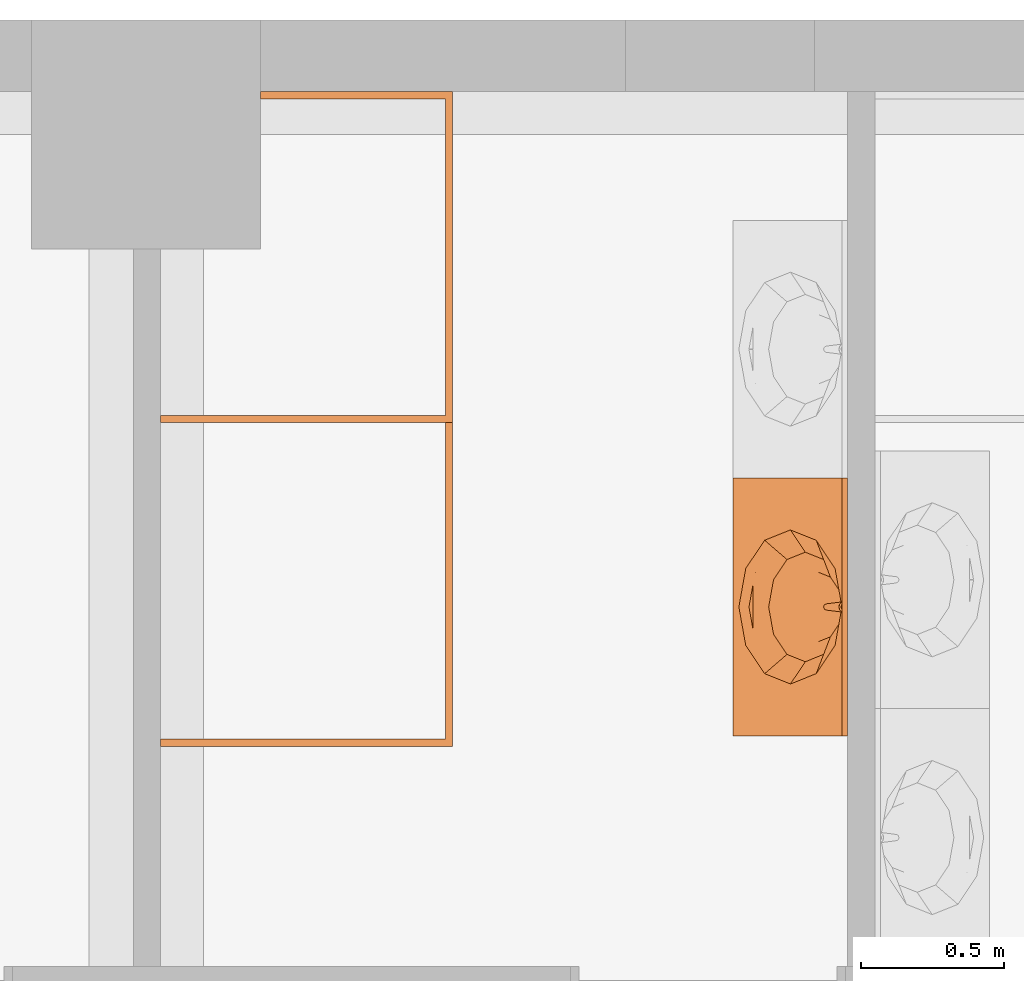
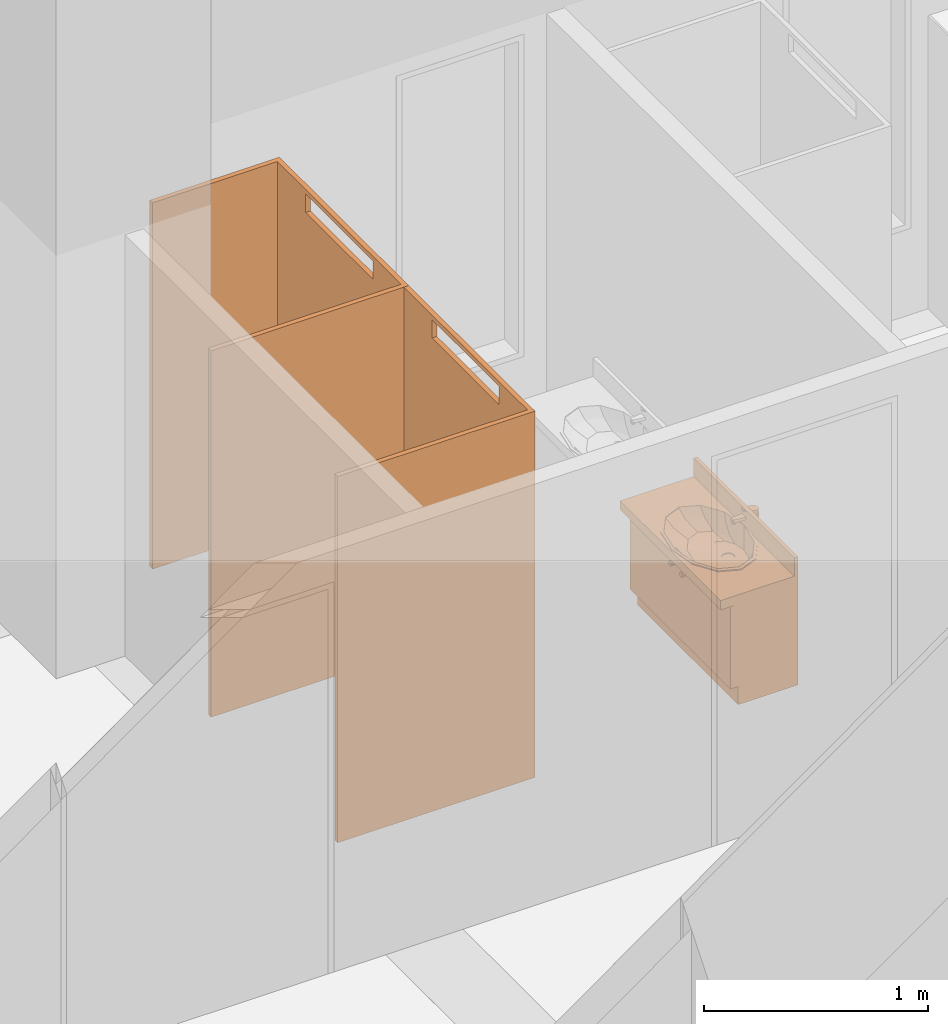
# One storey, part 10 of 14: 3 proxies.
"""IFC2X3 building model written with IfcOpenShell, lengths in millimetres."""

from ifc_helpers import new_model, entity, si_unit, converted_unit, direction, frame, origin_with_axes, place, context, project, spatial, open_shell, faceted_brep, surface_model, material, element, save


model = new_model("IFC2X3")

# Units and contexts
model_context = context("Model", 3, precision=1e-05, world=origin_with_axes(), true_north=direction((0.0, 1.0)))
ifc_project = project(units=[si_unit("LENGTHUNIT", "METRE", prefix="MILLI"), si_unit("AREAUNIT", "SQUARE_METRE"), si_unit("VOLUMEUNIT", "CUBIC_METRE"), converted_unit("PLANEANGLEUNIT", "DEGREE", entity("IfcPlaneAngleMeasure", 0.017453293), si_unit("PLANEANGLEUNIT", "RADIAN"), dimensions=[0, 0, 0, 0, 0, 0, 0]), si_unit("SOLIDANGLEUNIT", "STERADIAN"), si_unit("MASSUNIT", "GRAM"), si_unit("TIMEUNIT", "SECOND"), si_unit("THERMODYNAMICTEMPERATUREUNIT", "DEGREE_CELSIUS"), si_unit("LUMINOUSINTENSITYUNIT", "LUMEN")], contexts=[model_context])

# Site, building, storey
site_placement = place(None, origin_with_axes())
site = spatial("IfcSite", under=ifc_project, at=site_placement, Name="\x83T\x83C\x83g", CompositionType="ELEMENT")
building_placement = place(site_placement, origin_with_axes())
building = spatial("IfcBuilding", under=site, at=building_placement, Name="Daitec-Sample 201208", CompositionType="ELEMENT")
storey_placement = place(building_placement, frame((0.0, 0.0, 8000.0), z_axis=(0.0, 0.0, 1.0), x_axis=(1.0, 0.0, 0.0)))
storey = spatial("IfcBuildingStorey", under=building, at=storey_placement, Name="3F", CompositionType="ELEMENT", Elevation=8000.0)

# Proxies
ifc_material = material(Name="\x94w\x8ci")
proxy_1_placement = place(storey_placement, frame((20550.071, 21300.379, 0.0), z_axis=(0.0, 0.0, 1.0), x_axis=(0.0, -1.0, 0.0)))
element("IfcBuildingElementProxy", 1, at=proxy_1_placement, inside=storey, material=ifc_material, Name="O2", context=model_context, shape_type="Brep", body=[
    faceted_brep([(0.0, 90.0, 0.0), (0.0, 90.0, 100.0), (-900.0, 90.0, 100.0), (-900.0, 90.0, 0.0), (0.0, 400.0, 0.0), (0.0, 400.0, 100.0), (-900.0, 400.0, 100.0), (-900.0, 400.0, 0.0)], [[[0, 1, 2, 3]], [[4, 5, 1, 0]], [[1, 5, 6, 2]], [[3, 2, 6, 7]], [[0, 3, 7, 4]], [[7, 6, 5, 4]]]),
    faceted_brep([(0.0, 70.0, 100.0), (0.0, 70.0, 120.0), (-20.0, 70.0, 120.0), (-20.0, 70.0, 100.0), (0.0, 400.0, 100.0), (0.0, 400.0, 120.0), (-20.0, 400.0, 120.0), (-880.0, 400.0, 120.0), (-900.0, 400.0, 120.0), (-900.0, 70.0, 120.0), (-880.0, 70.0, 120.0), (-880.0, 70.0, 100.0), (-900.0, 70.0, 100.0), (-900.0, 400.0, 100.0), (-880.0, 400.0, 100.0), (-20.0, 400.0, 100.0)], [[[0, 1, 2, 3]], [[4, 5, 1, 0]], [[1, 5, 6, 7, 8, 9, 10, 2]], [[3, 2, 10, 11]], [[0, 3, 11, 12, 13, 14, 15, 4]], [[15, 6, 5, 4]], [[14, 7, 6, 15]], [[13, 8, 7, 14]], [[12, 9, 8, 13]], [[11, 10, 9, 12]]]),
    faceted_brep([(0.0, 70.0, 120.0), (0.0, 70.0, 550.0), (-20.0, 70.0, 550.0), (-20.0, 70.0, 120.0), (0.0, 400.0, 120.0), (0.0, 400.0, 550.0), (-900.0, 400.0, 550.0), (-900.0, 70.0, 550.0), (-880.0, 70.0, 550.0), (-880.0, 380.0, 550.0), (-20.0, 380.0, 550.0), (-20.0, 380.0, 120.0), (-880.0, 380.0, 120.0), (-880.0, 70.0, 120.0), (-900.0, 70.0, 120.0), (-900.0, 400.0, 120.0)], [[[0, 1, 2, 3]], [[4, 5, 1, 0]], [[1, 5, 6, 7, 8, 9, 10, 2]], [[3, 2, 10, 11]], [[0, 3, 11, 12, 13, 14, 15, 4]], [[15, 6, 5, 4]], [[14, 7, 6, 15]], [[13, 8, 7, 14]], [[12, 9, 8, 13]], [[11, 10, 9, 12]]]),
    faceted_brep([(-880.0, 70.0, 223.33333), (-880.0, 70.0, 243.33333), (-880.0, 380.0, 243.33333), (-880.0, 380.0, 223.33333), (-20.0, 70.0, 223.33333), (-20.0, 70.0, 243.33333), (-20.0, 380.0, 243.33333), (-20.0, 380.0, 223.33333)], [[[0, 1, 2, 3]], [[4, 5, 1, 0]], [[1, 5, 6, 2]], [[3, 2, 6, 7]], [[0, 3, 7, 4]], [[7, 6, 5, 4]]]),
    faceted_brep([(-880.0, 70.0, 366.66667), (-880.0, 70.0, 386.66667), (-880.0, 380.0, 386.66667), (-880.0, 380.0, 366.66667), (-20.0, 70.0, 366.66667), (-20.0, 70.0, 386.66667), (-20.0, 380.0, 386.66667), (-20.0, 380.0, 366.66667)], [[[0, 1, 2, 3]], [[4, 5, 1, 0]], [[1, 5, 6, 2]], [[3, 2, 6, 7]], [[0, 3, 7, 4]], [[7, 6, 5, 4]]]),
    faceted_brep([(0.0, 400.0, 550.0), (0.0, 0.0, 550.0), (-900.0, 0.0, 550.0), (-900.0, 400.0, 550.0), (-216.17314, 290.0, 550.0), (-315.0, 355.88457, 550.0), (-450.0, 380.0, 550.0), (-585.0, 355.88457, 550.0), (-683.82686, 290.0, 550.0), (-720.0, 200.0, 550.0), (-683.82686, 110.0, 550.0), (-585.0, 44.115427, 550.0), (-450.0, 20.0, 550.0), (-315.0, 44.115427, 550.0), (-216.17314, 110.0, 550.0), (-180.0, 200.0, 550.0), (0.0, 400.0, 600.0), (0.0, 0.0, 600.0), (-900.0, 0.0, 600.0), (-900.0, 400.0, 600.0), (-216.17314, 290.0, 600.0), (-315.0, 355.88457, 600.0), (-450.0, 380.0, 600.0), (-585.0, 355.88457, 600.0), (-683.82686, 290.0, 600.0), (-720.0, 200.0, 600.0), (-683.82686, 110.0, 600.0), (-585.0, 44.115427, 600.0), (-450.0, 20.0, 600.0), (-315.0, 44.115427, 600.0), (-216.17314, 110.0, 600.0), (-180.0, 200.0, 600.0)], [[[0, 1, 2, 3], [4, 5, 6, 7, 8, 9, 10, 11, 12, 13, 14, 15]], [[1, 0, 16, 17]], [[2, 1, 17, 18]], [[3, 2, 18, 19]], [[0, 3, 19, 16]], [[20, 21, 5, 4]], [[21, 22, 6, 5]], [[22, 23, 7, 6]], [[23, 24, 8, 7]], [[24, 25, 9, 8]], [[25, 26, 10, 9]], [[26, 27, 11, 10]], [[27, 28, 12, 11]], [[28, 29, 13, 12]], [[29, 30, 14, 13]], [[30, 31, 15, 14]], [[31, 20, 4, 15]], [[18, 17, 16, 19], [24, 23, 22, 21, 20, 31, 30, 29, 28, 27, 26, 25]]]),
    faceted_brep([(0.0, 380.0, 600.0), (0.0, 380.0, 700.0), (-900.0, 380.0, 700.0), (-900.0, 380.0, 600.0), (0.0, 400.0, 600.0), (0.0, 400.0, 700.0), (-900.0, 400.0, 700.0), (-900.0, 400.0, 600.0)], [[[0, 1, 2, 3]], [[4, 5, 1, 0]], [[1, 5, 6, 2]], [[3, 2, 6, 7]], [[0, 3, 7, 4]], [[7, 6, 5, 4]]]),
    faceted_brep([(-739.0, 200.0, 605.0), (-700.28134, 296.69145, 605.0), (-700.28134, 296.69145, 600.0), (-739.0, 200.0, 600.0), (-700.28134, 103.30855, 605.0), (-594.5, 32.525496, 605.0), (-450.0, 6.6171004, 605.0), (-305.5, 32.525496, 605.0), (-199.71866, 103.30855, 605.0), (-161.0, 200.0, 605.0), (-199.71866, 296.69145, 605.0), (-305.5, 367.4745, 605.0), (-450.0, 393.3829, 605.0), (-594.5, 367.4745, 605.0), (-719.0, 200.0, 605.0), (-682.96083, 290.0, 605.0), (-584.5, 355.88457, 605.0), (-450.0, 380.0, 605.0), (-315.5, 355.88457, 605.0), (-217.03917, 290.0, 605.0), (-181.0, 200.0, 605.0), (-217.03917, 110.0, 605.0), (-315.5, 44.115427, 605.0), (-450.0, 20.0, 605.0), (-584.5, 44.115427, 605.0), (-682.96083, 110.0, 605.0), (-594.5, 367.4745, 600.0), (-450.0, 393.3829, 600.0), (-305.5, 367.4745, 600.0), (-199.71866, 296.69145, 600.0), (-161.0, 200.0, 600.0), (-199.71866, 103.30855, 600.0), (-305.5, 32.525496, 600.0), (-450.0, 6.6171004, 600.0), (-594.5, 32.525496, 600.0), (-700.28134, 103.30855, 600.0), (-719.0, 200.0, 600.0), (-682.96083, 110.0, 600.0), (-584.5, 44.115427, 600.0), (-450.0, 20.0, 600.0), (-315.5, 44.115427, 600.0), (-217.03917, 110.0, 600.0), (-181.0, 200.0, 600.0), (-217.03917, 290.0, 600.0), (-315.5, 355.88457, 600.0), (-450.0, 380.0, 600.0), (-584.5, 355.88457, 600.0), (-682.96083, 290.0, 600.0)], [[[0, 1, 2, 3]], [[0, 4, 5, 6, 7, 8, 9, 10, 11, 12, 13, 1], [14, 15, 16, 17, 18, 19, 20, 21, 22, 23, 24, 25]], [[1, 13, 26, 2]], [[3, 2, 26, 27, 28, 29, 30, 31, 32, 33, 34, 35], [36, 37, 38, 39, 40, 41, 42, 43, 44, 45, 46, 47]], [[4, 0, 3, 35]], [[5, 4, 35, 34]], [[6, 5, 34, 33]], [[7, 6, 33, 32]], [[8, 7, 32, 31]], [[9, 8, 31, 30]], [[10, 9, 30, 29]], [[11, 10, 29, 28]], [[12, 11, 28, 27]], [[13, 12, 27, 26]], [[15, 14, 36, 47]], [[16, 15, 47, 46]], [[17, 16, 46, 45]], [[18, 17, 45, 44]], [[19, 18, 44, 43]], [[20, 19, 43, 42]], [[21, 20, 42, 41]], [[22, 21, 41, 40]], [[23, 22, 40, 39]], [[24, 23, 39, 38]], [[25, 24, 38, 37]], [[14, 25, 37, 36]]]),
    surface_model("IfcShellBasedSurfaceModel", [(-450.0, 380.0, 600.0), (-584.5, 355.88457, 600.0), (-571.05, 358.29612, 548.0), (-450.0, 380.0, 548.0), (-682.96083, 290.0, 600.0), (-659.66475, 299.0, 548.0), (-315.5, 355.88457, 600.0), (-328.95, 358.29612, 548.0), (-719.0, 200.0, 600.0), (-692.1, 218.0, 548.0), (-217.03917, 290.0, 600.0), (-240.33525, 299.0, 548.0), (-682.96083, 110.0, 600.0), (-659.66475, 137.0, 548.0), (-181.0, 200.0, 600.0), (-207.9, 218.0, 548.0), (-584.5, 44.115427, 600.0), (-571.05, 77.703885, 548.0), (-217.03917, 110.0, 600.0), (-240.33525, 137.0, 548.0), (-450.0, 20.0, 600.0), (-450.0, 56.0, 548.0), (-315.5, 44.115427, 600.0), (-328.95, 77.703885, 548.0)], [open_shell([[[0, 1, 2, 3]], [[1, 4, 5, 2]], [[6, 0, 3, 7]], [[4, 8, 9, 5]], [[10, 6, 7, 11]], [[8, 12, 13, 9]], [[14, 10, 11, 15]], [[12, 16, 17, 13]], [[18, 14, 15, 19]], [[16, 20, 21, 17]], [[22, 18, 19, 23]], [[20, 22, 23, 21]]])]),
    surface_model("IfcShellBasedSurfaceModel", [(-450.0, 380.0, 548.0), (-571.05, 358.29612, 548.0), (-545.6295, 362.85393, 496.0), (-450.0, 380.0, 496.0), (-659.66475, 299.0, 548.0), (-615.63515, 316.01, 496.0), (-328.95, 358.29612, 548.0), (-354.3705, 362.85393, 496.0), (-692.1, 218.0, 548.0), (-641.259, 252.02, 496.0), (-240.33525, 299.0, 548.0), (-284.36485, 316.01, 496.0), (-659.66475, 137.0, 548.0), (-615.63515, 188.03, 496.0), (-207.9, 218.0, 548.0), (-258.741, 252.02, 496.0), (-571.05, 77.703885, 548.0), (-545.6295, 141.18607, 496.0), (-240.33525, 137.0, 548.0), (-284.36485, 188.03, 496.0), (-450.0, 56.0, 548.0), (-450.0, 124.04, 496.0), (-328.95, 77.703885, 548.0), (-354.3705, 141.18607, 496.0)], [open_shell([[[0, 1, 2, 3]], [[1, 4, 5, 2]], [[6, 0, 3, 7]], [[4, 8, 9, 5]], [[10, 6, 7, 11]], [[8, 12, 13, 9]], [[14, 10, 11, 15]], [[12, 16, 17, 13]], [[18, 14, 15, 19]], [[16, 20, 21, 17]], [[22, 18, 19, 23]], [[20, 22, 23, 21]]])]),
    surface_model("IfcShellBasedSurfaceModel", [(-450.0, 380.0, 496.0), (-545.6295, 362.85393, 496.0), (-510.24659, 369.19798, 470.0), (-450.0, 380.0, 470.0), (-615.63515, 316.01, 496.0), (-554.35015, 339.6863, 470.0), (-354.3705, 362.85393, 496.0), (-389.75341, 369.19798, 470.0), (-641.259, 252.02, 496.0), (-570.49317, 299.3726, 470.0), (-284.36485, 316.01, 496.0), (-345.64985, 339.6863, 470.0), (-615.63515, 188.03, 496.0), (-554.35015, 259.0589, 470.0), (-258.741, 252.02, 496.0), (-329.50683, 299.3726, 470.0), (-545.6295, 141.18607, 496.0), (-510.24659, 229.54722, 470.0), (-284.36485, 188.03, 496.0), (-345.64985, 259.0589, 470.0), (-450.0, 124.04, 496.0), (-450.0, 218.7452, 470.0), (-354.3705, 141.18607, 496.0), (-389.75341, 229.54722, 470.0)], [open_shell([[[0, 1, 2, 3]], [[1, 4, 5, 2]], [[6, 0, 3, 7]], [[4, 8, 9, 5]], [[10, 6, 7, 11]], [[8, 12, 13, 9]], [[14, 10, 11, 15]], [[12, 16, 17, 13]], [[18, 14, 15, 19]], [[16, 20, 21, 17]], [[22, 18, 19, 23]], [[20, 22, 23, 21]]])]),
    surface_model("IfcShellBasedSurfaceModel", [(-450.0, 380.0, 470.0), (-510.24659, 369.19798, 470.0), (-465.0, 325.35336, 463.0), (-475.98076, 314.3726, 463.0), (-450.0, 329.3726, 463.0), (-554.35015, 339.6863, 470.0), (-389.75341, 369.19798, 470.0), (-480.0, 299.3726, 463.0), (-435.0, 325.35336, 463.0), (-570.49317, 299.3726, 470.0), (-345.64985, 339.6863, 470.0), (-475.98076, 284.3726, 463.0), (-424.01924, 314.3726, 463.0), (-554.35015, 259.0589, 470.0), (-329.50683, 299.3726, 470.0), (-465.0, 273.39184, 463.0), (-420.0, 299.3726, 463.0), (-510.24659, 229.54722, 470.0), (-345.64985, 259.0589, 470.0), (-450.0, 269.3726, 463.0), (-424.01924, 284.3726, 463.0), (-450.0, 218.7452, 470.0), (-389.75341, 229.54722, 470.0), (-435.0, 273.39184, 463.0)], [open_shell([[[0, 1, 2]], [[1, 3, 2]], [[0, 2, 4]], [[1, 5, 3]], [[6, 0, 4]], [[5, 7, 3]], [[6, 4, 8]], [[5, 9, 7]], [[10, 6, 8]], [[9, 11, 7]], [[10, 8, 12]], [[9, 13, 11]], [[14, 10, 12]], [[13, 15, 11]], [[14, 12, 16]], [[13, 17, 15]], [[18, 14, 16]], [[17, 19, 15]], [[18, 16, 20]], [[17, 21, 19]], [[22, 18, 20]], [[21, 23, 19]], [[22, 20, 23]], [[21, 22, 23]]])]),
    surface_model("IfcShellBasedSurfaceModel", [(-480.0, 299.3726, 463.0), (-475.98076, 314.3726, 463.0), (-475.98076, 314.3726, 458.0), (-480.0, 299.3726, 458.0), (-465.0, 325.35336, 463.0), (-465.0, 325.35336, 458.0), (-450.0, 329.3726, 458.0), (-435.0, 325.35336, 458.0), (-424.01924, 314.3726, 458.0), (-420.0, 299.3726, 458.0), (-424.01924, 284.3726, 458.0), (-435.0, 273.39184, 458.0), (-450.0, 269.3726, 458.0), (-465.0, 273.39184, 458.0), (-475.98076, 284.3726, 458.0), (-475.98076, 284.3726, 463.0), (-450.0, 329.3726, 463.0), (-435.0, 325.35336, 463.0), (-424.01924, 314.3726, 463.0), (-420.0, 299.3726, 463.0), (-424.01924, 284.3726, 463.0), (-435.0, 273.39184, 463.0), (-450.0, 269.3726, 463.0), (-465.0, 273.39184, 463.0)], [open_shell([[[0, 1, 2, 3]], [[1, 4, 5, 2]], [[3, 2, 5, 6, 7, 8, 9, 10, 11, 12, 13, 14]], [[15, 0, 3, 14]], [[4, 16, 6, 5]], [[16, 17, 7, 6]], [[17, 18, 8, 7]], [[18, 19, 9, 8]], [[19, 20, 10, 9]], [[20, 21, 11, 10]], [[21, 22, 12, 11]], [[22, 23, 13, 12]], [[23, 15, 14, 13]]])]),
    faceted_brep([(-462.5, 451.65064, 600.0), (-460.58732, 448.33778, 676.50709), (-450.0, 451.20192, 675.96154), (-450.0, 455.0, 600.0), (-471.65064, 442.5, 600.0), (-468.27355, 440.55024, 677.99043), (-471.0, 430.0, 680.0), (-468.10034, 419.54976, 681.99052), (-460.41411, 411.96224, 683.43576), (-450.0, 409.19811, 683.96226), (-439.58589, 411.96224, 683.43576), (-431.89966, 419.54976, 681.99052), (-429.0, 430.0, 680.0), (-431.72645, 440.55024, 677.99043), (-439.41268, 448.33778, 676.50709), (-437.5, 451.65064, 600.0), (-428.34936, 442.5, 600.0), (-425.0, 430.0, 600.0), (-428.34936, 417.5, 600.0), (-437.5, 408.34936, 600.0), (-450.0, 405.0, 600.0), (-462.5, 408.34936, 600.0), (-471.65064, 417.5, 600.0), (-475.0, 430.0, 600.0)], [[[0, 1, 2, 3]], [[4, 5, 1, 0]], [[1, 5, 6, 7, 8, 9, 10, 11, 12, 13, 14, 2]], [[3, 2, 14, 15]], [[0, 3, 15, 16, 17, 18, 19, 20, 21, 22, 23, 4]], [[23, 6, 5, 4]], [[22, 7, 6, 23]], [[21, 8, 7, 22]], [[20, 9, 8, 21]], [[19, 10, 9, 20]], [[18, 11, 10, 19]], [[17, 12, 11, 18]], [[16, 13, 12, 17]], [[15, 14, 13, 16]]]),
    faceted_brep([(-459.0, 327.0, 635.0), (-459.0, 327.0, 645.0), (-457.79423, 331.5, 645.0), (-457.79423, 331.5, 635.0), (-457.79423, 322.5, 635.0), (-457.79423, 322.5, 645.0), (-454.5, 319.20577, 645.0), (-450.0, 318.0, 645.0), (-445.5, 319.20577, 645.0), (-442.20577, 322.5, 645.0), (-441.0, 327.0, 645.0), (-442.20577, 331.5, 645.0), (-445.5, 334.79423, 645.0), (-450.0, 336.0, 645.0), (-454.5, 334.79423, 645.0), (-454.5, 334.79423, 635.0), (-450.0, 336.0, 635.0), (-445.5, 334.79423, 635.0), (-442.20577, 331.5, 635.0), (-441.0, 327.0, 635.0), (-442.20577, 322.5, 635.0), (-445.5, 319.20577, 635.0), (-450.0, 318.0, 635.0), (-454.5, 319.20577, 635.0)], [[[0, 1, 2, 3]], [[4, 5, 1, 0]], [[1, 5, 6, 7, 8, 9, 10, 11, 12, 13, 14, 2]], [[3, 2, 14, 15]], [[0, 3, 15, 16, 17, 18, 19, 20, 21, 22, 23, 4]], [[23, 6, 5, 4]], [[22, 7, 6, 23]], [[21, 8, 7, 22]], [[20, 9, 8, 21]], [[19, 10, 9, 20]], [[18, 11, 10, 19]], [[17, 12, 11, 18]], [[16, 13, 12, 17]], [[15, 14, 13, 16]]]),
    faceted_brep([(-440.97112, 320.71681, 660.0), (-439.08801, 325.61163, 660.0), (-426.1946, 426.9501, 660.0), (-428.27219, 440.19321, 660.0), (-437.12828, 450.2563, 660.0), (-450.0, 453.99998, 660.0), (-462.87172, 450.2563, 660.0), (-471.72781, 440.1932, 660.0), (-473.8054, 426.9501, 660.0), (-460.912, 325.6117, 660.0), (-459.02892, 320.71687, 660.0), (-455.09339, 317.25031, 660.0), (-450.00004, 316.00004, 660.0), (-444.90668, 317.25027, 660.0), (-469.05256, 441.0, 660.0), (-461.0, 449.05256, 660.0), (-450.0, 452.0, 660.0), (-439.0, 449.05256, 660.0), (-430.94744, 441.0, 660.0), (-428.0, 430.0, 660.0), (-430.94744, 419.0, 660.0), (-439.0, 410.94744, 660.0), (-450.0, 408.0, 660.0), (-461.0, 410.94744, 660.0), (-469.05256, 419.0, 660.0), (-472.0, 430.0, 660.0), (-440.97112, 320.71681, 645.0), (-439.08801, 325.61163, 645.0), (-426.1946, 426.9501, 645.0), (-428.27219, 440.19321, 645.0), (-437.12828, 450.2563, 645.0), (-450.0, 453.99998, 645.0), (-462.87172, 450.2563, 645.0), (-471.72781, 440.1932, 645.0), (-473.8054, 426.9501, 645.0), (-460.912, 325.6117, 645.0), (-459.02892, 320.71687, 645.0), (-455.09339, 317.25031, 645.0), (-450.00004, 316.00004, 645.0), (-444.90668, 317.25027, 645.0), (-469.70208, 441.375, 645.0), (-461.375, 449.70208, 645.0), (-450.0, 452.75, 645.0), (-438.625, 449.70208, 645.0), (-430.29792, 441.375, 645.0), (-427.25, 430.0, 645.0), (-430.29792, 418.625, 645.0), (-438.625, 410.29792, 645.0), (-450.0, 407.25, 645.0), (-461.375, 410.29792, 645.0), (-469.70208, 418.625, 645.0), (-472.75, 430.0, 645.0)], [[[0, 1, 2, 3, 4, 5, 6, 7, 8, 9, 10, 11, 12, 13], [14, 15, 16, 17, 18, 19, 20, 21, 22, 23, 24, 25]], [[26, 27, 1, 0]], [[27, 28, 2, 1]], [[28, 29, 3, 2]], [[29, 30, 4, 3]], [[30, 31, 5, 4]], [[31, 32, 6, 5]], [[32, 33, 7, 6]], [[33, 34, 8, 7]], [[34, 35, 9, 8]], [[35, 36, 10, 9]], [[36, 37, 11, 10]], [[37, 38, 12, 11]], [[38, 39, 13, 12]], [[39, 26, 0, 13]], [[40, 41, 15, 14]], [[41, 42, 16, 15]], [[42, 43, 17, 16]], [[43, 44, 18, 17]], [[44, 45, 19, 18]], [[20, 19, 45, 46]], [[21, 20, 46, 47]], [[22, 21, 47, 48]], [[23, 22, 48, 49]], [[24, 23, 49, 50]], [[50, 51, 25, 24]], [[51, 40, 14, 25]], [[28, 27, 26, 39, 38, 37, 36, 35, 34, 33, 32, 31, 30, 29], [44, 43, 42, 41, 40, 51, 50, 49, 48, 47, 46, 45]]]),
    faceted_brep([(-473.893, 428.30743, 680.32239), (-473.893, 429.05588, 684.25175), (-471.29642, 441.52317, 681.87703), (-471.29642, 440.77472, 677.94767), (-470.94594, 388.1633, 687.9689), (-470.94594, 388.91175, 691.89825), (-467.66314, 379.23408, 693.74161), (-460.06144, 372.2847, 695.06531), (-449.99956, 369.76284, 695.54566), (-439.93779, 372.28512, 695.06523), (-432.33638, 379.23481, 693.74148), (-429.054, 388.91261, 691.89808), (-426.10698, 429.05616, 684.2517), (-428.70371, 441.52342, 681.87698), (-437.52832, 450.83965, 680.10246), (-450.00014, 454.28041, 679.44708), (-462.47192, 450.8395, 680.10249), (-464.0, 405.20765, 688.79427), (-436.0, 405.20765, 688.79427), (-436.0, 390.39202, 691.61629), (-437.87564, 383.51565, 692.92608), (-443.0, 378.48179, 693.88491), (-450.0, 376.63928, 694.23586), (-457.0, 378.48179, 693.88491), (-462.12436, 383.51565, 692.92608), (-464.0, 390.39202, 691.61629), (-462.47192, 450.09105, 676.17313), (-450.00014, 453.53196, 675.51772), (-437.52832, 450.0912, 676.17311), (-428.70371, 440.77497, 677.94763), (-426.10698, 428.30771, 680.32234), (-429.054, 388.16417, 687.96873), (-432.33638, 378.48636, 689.81212), (-439.93779, 371.53667, 691.13587), (-449.99956, 369.01439, 691.61631), (-460.06144, 371.53625, 691.13595), (-467.66314, 378.48563, 689.81226), (-464.0, 404.4592, 684.86491), (-464.0, 389.64357, 687.68694), (-462.12436, 382.7672, 688.99672), (-457.0, 377.73334, 689.95555), (-450.0, 375.89083, 690.30651), (-443.0, 377.73334, 689.95555), (-437.87564, 382.7672, 688.99672), (-436.0, 389.64357, 687.68694), (-436.0, 404.4592, 684.86491)], [[[0, 1, 2, 3]], [[4, 5, 1, 0]], [[1, 5, 6, 7, 8, 9, 10, 11, 12, 13, 14, 15, 16, 2], [17, 18, 19, 20, 21, 22, 23, 24, 25]], [[3, 2, 16, 26]], [[0, 3, 26, 27, 28, 29, 30, 31, 32, 33, 34, 35, 36, 4], [37, 38, 39, 40, 41, 42, 43, 44, 45]], [[36, 6, 5, 4]], [[35, 7, 6, 36]], [[34, 8, 7, 35]], [[33, 9, 8, 34]], [[32, 10, 9, 33]], [[31, 11, 10, 32]], [[30, 12, 11, 31]], [[29, 13, 12, 30]], [[28, 14, 13, 29]], [[27, 15, 14, 28]], [[26, 16, 15, 27]], [[45, 18, 17, 37]], [[44, 19, 18, 45]], [[43, 20, 19, 44]], [[42, 21, 20, 43]], [[41, 22, 21, 42]], [[40, 23, 22, 41]], [[39, 24, 23, 40]], [[38, 25, 24, 39]], [[37, 17, 25, 38]]]),
    faceted_brep([(0.0, 70.0, 100.0), (0.0, 50.0, 100.0), (-449.0, 50.0, 100.0), (-449.0, 70.0, 100.0), (0.0, 70.0, 549.0), (0.0, 50.0, 549.0), (-449.0, 50.0, 549.0), (-449.0, 70.0, 549.0)], [[[0, 1, 2, 3]], [[4, 5, 1, 0]], [[1, 5, 6, 2]], [[3, 2, 6, 7]], [[0, 3, 7, 4]], [[7, 6, 5, 4]]]),
    faceted_brep([(-409.3923, 50.0, 484.0), (-411.0, 50.0, 490.0), (-409.3923, 50.0, 496.0), (-405.0, 50.0, 500.3923), (-399.0, 50.0, 502.0), (-393.0, 50.0, 500.3923), (-388.6077, 50.0, 496.0), (-387.0, 50.0, 490.0), (-388.6077, 50.0, 484.0), (-393.0, 50.0, 479.6077), (-399.0, 50.0, 478.0), (-405.0, 50.0, 479.6077), (-409.3923, 25.0, 484.0), (-411.0, 25.0, 490.0), (-409.3923, 25.0, 496.0), (-405.0, 25.0, 500.3923), (-399.0, 25.0, 502.0), (-393.0, 25.0, 500.3923), (-388.6077, 25.0, 496.0), (-387.0, 25.0, 490.0), (-388.6077, 25.0, 484.0), (-393.0, 25.0, 479.6077), (-399.0, 25.0, 478.0), (-405.0, 25.0, 479.6077)], [[[0, 1, 2, 3, 4, 5, 6, 7, 8, 9, 10, 11]], [[0, 12, 13, 1]], [[1, 13, 14, 2]], [[2, 14, 15, 3]], [[3, 15, 16, 4]], [[4, 16, 17, 5]], [[5, 17, 18, 6]], [[6, 18, 19, 7]], [[7, 19, 20, 8]], [[8, 20, 21, 9]], [[9, 21, 22, 10]], [[10, 22, 23, 11]], [[11, 23, 12, 0]], [[12, 23, 22, 21, 20, 19, 18, 17, 16, 15, 14, 13]]]),
    faceted_brep([(-899.0, 70.0, 100.0), (-450.0, 70.0, 100.0), (-450.0, 50.0, 100.0), (-899.0, 50.0, 100.0), (-899.0, 70.0, 549.0), (-450.0, 70.0, 549.0), (-450.0, 50.0, 549.0), (-899.0, 50.0, 549.0)], [[[0, 1, 2, 3]], [[0, 4, 5, 1]], [[1, 5, 6, 2]], [[3, 2, 6, 7]], [[4, 0, 3, 7]], [[5, 4, 7, 6]]]),
    faceted_brep([(-489.6077, 50.0, 484.0), (-494.0, 50.0, 479.6077), (-500.0, 50.0, 478.0), (-506.0, 50.0, 479.6077), (-510.3923, 50.0, 484.0), (-512.0, 50.0, 490.0), (-510.3923, 50.0, 496.0), (-506.0, 50.0, 500.3923), (-500.0, 50.0, 502.0), (-494.0, 50.0, 500.3923), (-489.6077, 50.0, 496.0), (-488.0, 50.0, 490.0), (-489.6077, 25.0, 484.0), (-494.0, 25.0, 479.6077), (-500.0, 25.0, 478.0), (-506.0, 25.0, 479.6077), (-510.3923, 25.0, 484.0), (-512.0, 25.0, 490.0), (-510.3923, 25.0, 496.0), (-506.0, 25.0, 500.3923), (-500.0, 25.0, 502.0), (-494.0, 25.0, 500.3923), (-489.6077, 25.0, 496.0), (-488.0, 25.0, 490.0)], [[[0, 1, 2, 3, 4, 5, 6, 7, 8, 9, 10, 11]], [[1, 0, 12, 13]], [[2, 1, 13, 14]], [[3, 2, 14, 15]], [[4, 3, 15, 16]], [[5, 4, 16, 17]], [[6, 5, 17, 18]], [[7, 6, 18, 19]], [[8, 7, 19, 20]], [[9, 8, 20, 21]], [[10, 9, 21, 22]], [[11, 10, 22, 23]], [[0, 11, 23, 12]], [[12, 23, 22, 21, 20, 19, 18, 17, 16, 15, 14, 13]]]),
])
proxy_2_placement = place(storey_placement, frame((19570.72, 21263.708, 0.0), z_axis=(0.0, 0.0, 1.0), x_axis=(0.0, 1.0, 0.0)))
element("IfcBuildingElementProxy", 2, at=proxy_2_placement, inside=storey, material=ifc_material, Name="O0", CompositionType="ELEMENT", context=model_context, shape_type="Brep", body=[
    faceted_brep([(0.0, 0.0, 200.0), (277.82295, 0.0, 200.0), (277.82295, 0.0, 1975.0), (0.0, 0.0, 1975.0), (0.0, 25.0, 200.0), (277.82295, 25.0, 200.0), (277.82295, 25.0, 1975.0), (0.0, 25.0, 1975.0)], [[[0, 1, 2, 3]], [[0, 4, 5, 1]], [[1, 5, 6, 2]], [[3, 2, 6, 7]], [[4, 0, 3, 7]], [[5, 4, 7, 6]]]),
    faceted_brep([(877.82295, 0.0, 200.0), (1155.6459, 0.0, 200.0), (1155.6459, 0.0, 1975.0), (877.82295, 0.0, 1975.0), (877.82295, 25.0, 200.0), (1155.6459, 25.0, 200.0), (1155.6459, 25.0, 1975.0), (877.82295, 25.0, 1975.0)], [[[0, 1, 2, 3]], [[0, 4, 5, 1]], [[1, 5, 6, 2]], [[3, 2, 6, 7]], [[4, 0, 3, 7]], [[5, 4, 7, 6]]]),
    faceted_brep([(0.0, 0.0, 0.0), (277.82295, 0.0, 0.0), (277.82295, 0.0, 200.0), (0.0, 0.0, 200.0), (0.0, 25.0, 0.0), (277.82295, 25.0, 0.0), (277.82295, 25.0, 200.0), (0.0, 25.0, 200.0)], [[[0, 1, 2, 3]], [[0, 4, 5, 1]], [[1, 5, 6, 2]], [[3, 2, 6, 7]], [[4, 0, 3, 7]], [[5, 4, 7, 6]]]),
    faceted_brep([(877.82295, 0.0, 0.0), (1155.6459, 0.0, 0.0), (1155.6459, 0.0, 200.0), (877.82295, 0.0, 200.0), (877.82295, 25.0, 0.0), (1155.6459, 25.0, 0.0), (1155.6459, 25.0, 200.0), (877.82295, 25.0, 200.0)], [[[0, 1, 2, 3]], [[0, 4, 5, 1]], [[1, 5, 6, 2]], [[3, 2, 6, 7]], [[4, 0, 3, 7]], [[5, 4, 7, 6]]]),
    faceted_brep([(1155.6459, 0.0, 1975.0), (1155.6459, 25.0, 1975.0), (1155.6459, 25.0, 2000.0), (1155.6459, 0.0, 2000.0), (0.0, 0.0, 1975.0), (0.0, 25.0, 1975.0), (0.0, 25.0, 2000.0), (0.0, 0.0, 2000.0)], [[[0, 1, 2, 3]], [[0, 4, 5, 1]], [[1, 5, 6, 2]], [[3, 2, 6, 7]], [[4, 0, 3, 7]], [[5, 4, 7, 6]]]),
    faceted_brep([(277.82295, 0.0, 50.0), (877.82295, 0.0, 50.0), (877.82295, 0.0, 1875.0), (277.82295, 0.0, 1875.0), (277.82295, 25.0, 50.0), (877.82295, 25.0, 50.0), (877.82295, 25.0, 1875.0), (277.82295, 25.0, 1875.0)], [[[0, 1, 2, 3]], [[0, 4, 5, 1]], [[1, 5, 6, 2]], [[3, 2, 6, 7]], [[4, 0, 3, 7]], [[5, 4, 7, 6]]]),
    faceted_brep([(25.0, 25.0, 0.0), (25.0, 1019.9703, 0.0), (25.0, 1019.9703, 2000.0), (25.0, 25.0, 2000.0), (0.0, 25.0, 0.0), (0.0, 1019.9703, 0.0), (0.0, 1019.9703, 2000.0), (0.0, 25.0, 2000.0)], [[[0, 1, 2, 3]], [[0, 4, 5, 1]], [[1, 5, 6, 2]], [[3, 2, 6, 7]], [[4, 0, 3, 7]], [[5, 4, 7, 6]]]),
    faceted_brep([(25.0, 25.0, 1775.0), (25.0, 1019.9703, 1775.0), (25.0, 1019.9703, 1800.0), (25.0, 25.0, 1800.0), (0.0, 25.0, 1775.0), (0.0, 1019.9703, 1775.0), (0.0, 1019.9703, 1800.0), (0.0, 25.0, 1800.0)], [[[0, 1, 2, 3]], [[0, 4, 5, 1]], [[1, 5, 6, 2]], [[3, 2, 6, 7]], [[4, 0, 3, 7]], [[5, 4, 7, 6]]]),
    faceted_brep([(1155.6459, 25.0, 0.0), (1155.6459, 1019.9703, 0.0), (1155.6459, 1019.9703, 2000.0), (1155.6459, 25.0, 2000.0), (1130.6459, 25.0, 0.0), (1130.6459, 1019.9703, 0.0), (1130.6459, 1019.9703, 2000.0), (1130.6459, 25.0, 2000.0)], [[[0, 1, 2, 3]], [[0, 4, 5, 1]], [[1, 5, 6, 2]], [[3, 2, 6, 7]], [[4, 0, 3, 7]], [[5, 4, 7, 6]]]),
    faceted_brep([(1155.6459, 25.0, 1775.0), (1155.6459, 1019.9703, 1775.0), (1155.6459, 1019.9703, 1800.0), (1155.6459, 25.0, 1800.0), (1130.6459, 25.0, 1775.0), (1130.6459, 1019.9703, 1775.0), (1130.6459, 1019.9703, 1800.0), (1130.6459, 25.0, 1800.0)], [[[0, 1, 2, 3]], [[0, 4, 5, 1]], [[1, 5, 6, 2]], [[3, 2, 6, 7]], [[4, 0, 3, 7]], [[5, 4, 7, 6]]]),
])
proxy_3_placement = place(storey_placement, frame((19570.72, 22394.354, 0.0), z_axis=(0.0, 0.0, 1.0), x_axis=(0.0, 1.0, 0.0)))
element("IfcBuildingElementProxy", 3, at=proxy_3_placement, inside=storey, material=ifc_material, Name="O0", CompositionType="ELEMENT", context=model_context, shape_type="Brep", body=[
    faceted_brep([(0.0, 0.0, 200.0), (277.82295, 0.0, 200.0), (277.82295, 0.0, 1975.0), (0.0, 0.0, 1975.0), (0.0, 25.0, 200.0), (277.82295, 25.0, 200.0), (277.82295, 25.0, 1975.0), (0.0, 25.0, 1975.0)], [[[0, 1, 2, 3]], [[0, 4, 5, 1]], [[1, 5, 6, 2]], [[3, 2, 6, 7]], [[4, 0, 3, 7]], [[5, 4, 7, 6]]]),
    faceted_brep([(877.82295, 0.0, 200.0), (1155.6459, 0.0, 200.0), (1155.6459, 0.0, 1975.0), (877.82295, 0.0, 1975.0), (877.82295, 25.0, 200.0), (1155.6459, 25.0, 200.0), (1155.6459, 25.0, 1975.0), (877.82295, 25.0, 1975.0)], [[[0, 1, 2, 3]], [[0, 4, 5, 1]], [[1, 5, 6, 2]], [[3, 2, 6, 7]], [[4, 0, 3, 7]], [[5, 4, 7, 6]]]),
    faceted_brep([(0.0, 0.0, 0.0), (277.82295, 0.0, 0.0), (277.82295, 0.0, 200.0), (0.0, 0.0, 200.0), (0.0, 25.0, 0.0), (277.82295, 25.0, 0.0), (277.82295, 25.0, 200.0), (0.0, 25.0, 200.0)], [[[0, 1, 2, 3]], [[0, 4, 5, 1]], [[1, 5, 6, 2]], [[3, 2, 6, 7]], [[4, 0, 3, 7]], [[5, 4, 7, 6]]]),
    faceted_brep([(877.82295, 0.0, 0.0), (1155.6459, 0.0, 0.0), (1155.6459, 0.0, 200.0), (877.82295, 0.0, 200.0), (877.82295, 25.0, 0.0), (1155.6459, 25.0, 0.0), (1155.6459, 25.0, 200.0), (877.82295, 25.0, 200.0)], [[[0, 1, 2, 3]], [[0, 4, 5, 1]], [[1, 5, 6, 2]], [[3, 2, 6, 7]], [[4, 0, 3, 7]], [[5, 4, 7, 6]]]),
    faceted_brep([(1155.6459, 0.0, 1975.0), (1155.6459, 25.0, 1975.0), (1155.6459, 25.0, 2000.0), (1155.6459, 0.0, 2000.0), (0.0, 0.0, 1975.0), (0.0, 25.0, 1975.0), (0.0, 25.0, 2000.0), (0.0, 0.0, 2000.0)], [[[0, 1, 2, 3]], [[0, 4, 5, 1]], [[1, 5, 6, 2]], [[3, 2, 6, 7]], [[4, 0, 3, 7]], [[5, 4, 7, 6]]]),
    faceted_brep([(277.82295, 0.0, 50.0), (877.82295, 0.0, 50.0), (877.82295, 0.0, 1875.0), (277.82295, 0.0, 1875.0), (277.82295, 25.0, 50.0), (877.82295, 25.0, 50.0), (877.82295, 25.0, 1875.0), (277.82295, 25.0, 1875.0)], [[[0, 1, 2, 3]], [[0, 4, 5, 1]], [[1, 5, 6, 2]], [[3, 2, 6, 7]], [[4, 0, 3, 7]], [[5, 4, 7, 6]]]),
    faceted_brep([(25.0, 25.0, 0.0), (25.0, 1019.9703, 0.0), (25.0, 1019.9703, 2000.0), (25.0, 25.0, 2000.0), (0.0, 25.0, 0.0), (0.0, 1019.9703, 0.0), (0.0, 1019.9703, 2000.0), (0.0, 25.0, 2000.0)], [[[0, 1, 2, 3]], [[0, 4, 5, 1]], [[1, 5, 6, 2]], [[3, 2, 6, 7]], [[4, 0, 3, 7]], [[5, 4, 7, 6]]]),
    faceted_brep([(25.0, 25.0, 1775.0), (25.0, 1019.9703, 1775.0), (25.0, 1019.9703, 1800.0), (25.0, 25.0, 1800.0), (0.0, 25.0, 1775.0), (0.0, 1019.9703, 1775.0), (0.0, 1019.9703, 1800.0), (0.0, 25.0, 1800.0)], [[[0, 1, 2, 3]], [[0, 4, 5, 1]], [[1, 5, 6, 2]], [[3, 2, 6, 7]], [[4, 0, 3, 7]], [[5, 4, 7, 6]]]),
    faceted_brep([(1155.6459, 25.0, 0.0), (1155.6459, 670.22795, 0.0), (1155.6459, 670.22795, 2000.0), (1155.6459, 25.0, 2000.0), (1130.6459, 25.0, 0.0), (1130.6459, 670.22795, 0.0), (1130.6459, 670.22795, 2000.0), (1130.6459, 25.0, 2000.0)], [[[0, 1, 2, 3]], [[0, 4, 5, 1]], [[1, 5, 6, 2]], [[3, 2, 6, 7]], [[4, 0, 3, 7]], [[5, 4, 7, 6]]]),
    faceted_brep([(1155.6459, 25.0, 1775.0), (1155.6459, 670.22795, 1775.0), (1155.6459, 670.22795, 1800.0), (1155.6459, 25.0, 1800.0), (1130.6459, 25.0, 1775.0), (1130.6459, 670.22795, 1775.0), (1130.6459, 670.22795, 1800.0), (1130.6459, 25.0, 1800.0)], [[[0, 1, 2, 3]], [[0, 4, 5, 1]], [[1, 5, 6, 2]], [[3, 2, 6, 7]], [[4, 0, 3, 7]], [[5, 4, 7, 6]]]),
])

save(model, "model.ifc")
